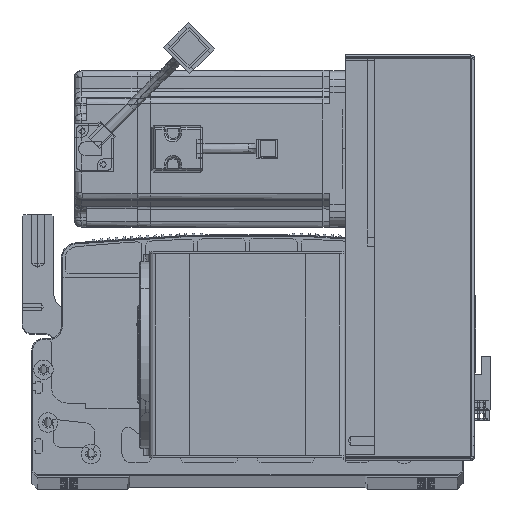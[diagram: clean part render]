
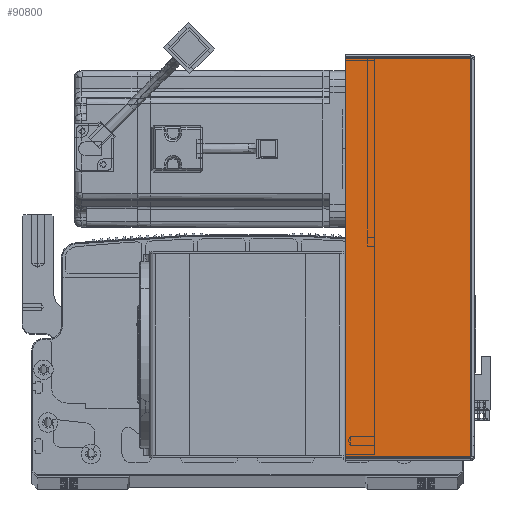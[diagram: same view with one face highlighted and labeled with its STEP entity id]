
A CAD part, top view. The second image highlights one B-rep face of the part: STEP entity #90800.
In plain terms, the highlighted planar face has unit normal (0, 0, 1) as drawn and (0, -1, 0) by its records, which use the part's own axes.
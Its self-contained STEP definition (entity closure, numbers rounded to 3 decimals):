
#759 = ORIENTED_EDGE ( 'NONE', *, *, #74065, .F. ) ;
#1745 = DIRECTION ( 'NONE',  ( 1., 0., 0. ) ) ;
#2987 = LINE ( 'NONE', #32725, #6742 ) ;
#3535 = VERTEX_POINT ( 'NONE', #77009 ) ;
#6742 = VECTOR ( 'NONE', #1745, 1000. ) ;
#11219 = VERTEX_POINT ( 'NONE', #72051 ) ;
#11235 = DIRECTION ( 'NONE',  ( 0., 1., 0. ) ) ;
#18337 = ORIENTED_EDGE ( 'NONE', *, *, #91793, .F. ) ;
#18793 = CARTESIAN_POINT ( 'NONE',  ( 0., -1.5, 0. ) ) ;
#19133 = EDGE_LOOP ( 'NONE', ( #18337, #58429, #102086, #759 ) ) ;
#21119 = VERTEX_POINT ( 'NONE', #53520 ) ;
#22748 = CARTESIAN_POINT ( 'NONE',  ( 0.737, -1.5, -203.293 ) ) ;
#31745 = DIRECTION ( 'NONE',  ( 0., 0., 1. ) ) ;
#32725 = CARTESIAN_POINT ( 'NONE',  ( 0., -1.5, -203.293 ) ) ;
#34601 = LINE ( 'NONE', #102021, #69109 ) ;
#42571 = PLANE ( 'NONE',  #82935 ) ;
#47675 = VECTOR ( 'NONE', #101260, 1000. ) ;
#53487 = LINE ( 'NONE', #84887, #65881 ) ;
#53520 = CARTESIAN_POINT ( 'NONE',  ( 64.5, -1.5, -0.707 ) ) ;
#54705 = CARTESIAN_POINT ( 'NONE',  ( 0., -1.5, -0.707 ) ) ;
#57105 = EDGE_CURVE ( 'NONE', #63448, #3535, #2987, .T. ) ;
#58429 = ORIENTED_EDGE ( 'NONE', *, *, #57105, .T. ) ;
#63448 = VERTEX_POINT ( 'NONE', #22748 ) ;
#65881 = VECTOR ( 'NONE', #101396, 1000. ) ;
#68596 = LINE ( 'NONE', #54705, #47675 ) ;
#69109 = VECTOR ( 'NONE', #31745, 1000. ) ;
#72051 = CARTESIAN_POINT ( 'NONE',  ( 0.737, -1.5, -0.707 ) ) ;
#74065 = EDGE_CURVE ( 'NONE', #11219, #21119, #68596, .T. ) ;
#77009 = CARTESIAN_POINT ( 'NONE',  ( 64.5, -1.5, -203.293 ) ) ;
#79643 = EDGE_CURVE ( 'NONE', #3535, #21119, #34601, .T. ) ;
#82575 = DIRECTION ( 'NONE',  ( -1., 0., 0. ) ) ;
#82935 = AXIS2_PLACEMENT_3D ( 'NONE', #18793, #11235, #82575 ) ;
#84887 = CARTESIAN_POINT ( 'NONE',  ( 0.737, -1.5, 0. ) ) ;
#90570 = FACE_OUTER_BOUND ( 'NONE', #19133, .T. ) ;
#90800 = ADVANCED_FACE ( 'NONE', ( #90570 ), #42571, .F. ) ;
#91793 = EDGE_CURVE ( 'NONE', #63448, #11219, #53487, .T. ) ;
#101260 = DIRECTION ( 'NONE',  ( 1., 0., 0. ) ) ;
#101396 = DIRECTION ( 'NONE',  ( 0., 0., 1. ) ) ;
#102021 = CARTESIAN_POINT ( 'NONE',  ( 64.5, -1.5, 0. ) ) ;
#102086 = ORIENTED_EDGE ( 'NONE', *, *, #79643, .T. ) ;
